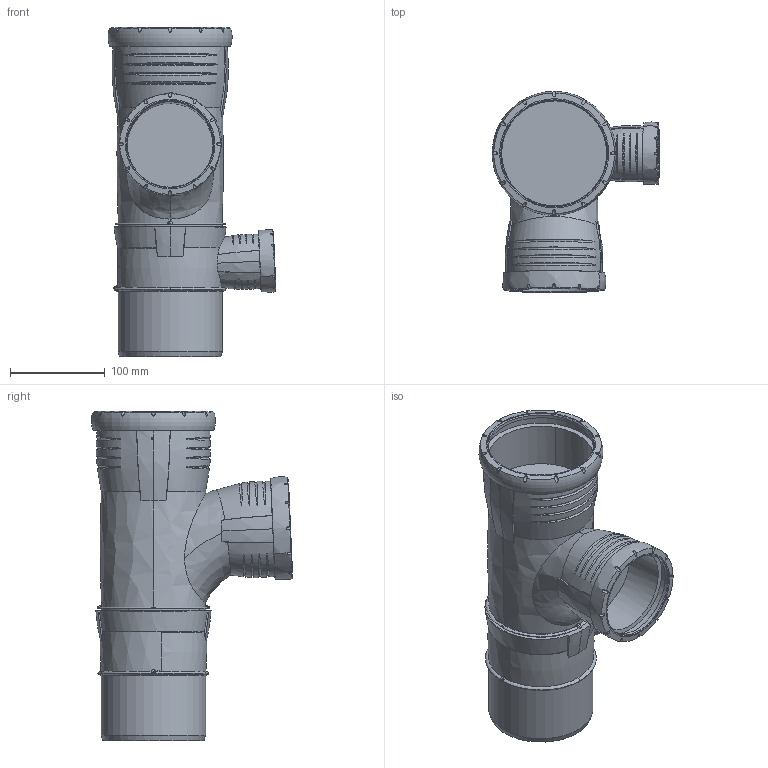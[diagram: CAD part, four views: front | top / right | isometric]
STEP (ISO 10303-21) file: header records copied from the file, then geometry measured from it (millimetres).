
FILE_DESCRIPTION(/* description */ (''),/* implementation_level */ '2;1');
FILE_NAME(/* name */ 'H:\Geberit-Teile\Export\Silent\stp\393570.stp',/* time_stamp */ '2017-03-30T11:37:28+02:00',/* author */ ('seihe2'),/* organization */ (''),/* preprocessor_version */ 'ST-DEVELOPER v15.2',/* originating_system */ 'Autodesk Inventor 2014',/* authorisation */ '');
FILE_SCHEMA (('AUTOMOTIVE_DESIGN { 1 0 10303 214 3 1 1 }'));
Length unit declared in the file: millimetre
Products named in the file (1): 393570
Bounding box: 177.1 x 212.38 x 347.7 mm (x, y, z)
Surface area: 279847.3 mm2 (no closed solid volume)
Topology: 0 solids, 1 shells, 270 faces, 778 edges, 527 vertices
Faces by surface type: bspline 145, cone 55, plane 49, cylinder 17, torus 4
Full cylindrical faces by diameter (mm): 51 x1, 60.1 x1, 91.2 x1, 100.2 x1, 110.2 x1, 111.3 x1, 121.5 x1
Entity records: 16545 total; most frequent: CARTESIAN_POINT 10555, ORIENTED_EDGE 1472, DIRECTION 788, EDGE_CURVE 736, VERTEX_POINT 516, B_SPLINE_CURVE_WITH_KNOTS 400, AXIS2_PLACEMENT_3D 357, EDGE_LOOP 318
